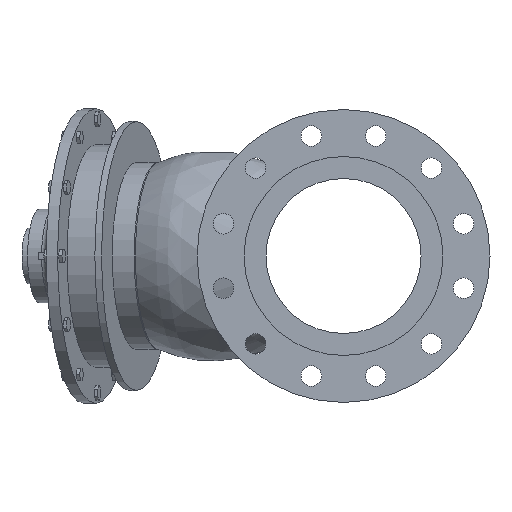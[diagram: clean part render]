
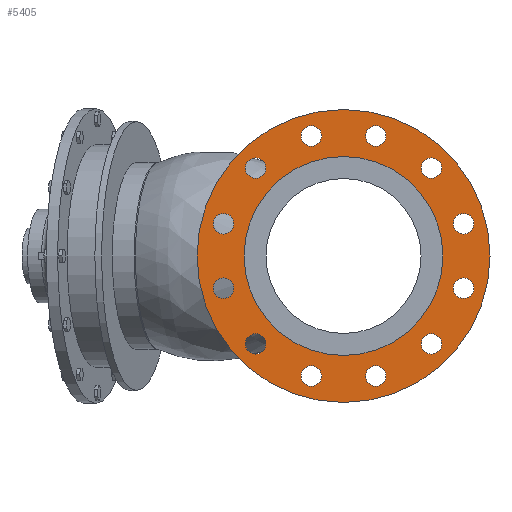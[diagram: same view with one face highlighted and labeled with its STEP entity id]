
A CAD part, left-side view. The second image highlights one B-rep face of the part: STEP entity #5405.
In plain terms, the highlighted planar face has unit normal (-1, 0, 0).
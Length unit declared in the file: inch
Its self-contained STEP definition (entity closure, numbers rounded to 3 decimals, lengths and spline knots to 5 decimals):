
#254=PLANE('',#5807);
#301=FACE_BOUND('',#983,.T.);
#302=FACE_BOUND('',#984,.T.);
#303=FACE_BOUND('',#985,.T.);
#304=FACE_BOUND('',#986,.T.);
#305=FACE_BOUND('',#987,.T.);
#306=FACE_BOUND('',#988,.T.);
#307=FACE_BOUND('',#989,.T.);
#308=FACE_BOUND('',#990,.T.);
#309=FACE_BOUND('',#991,.T.);
#310=FACE_BOUND('',#992,.T.);
#311=FACE_BOUND('',#993,.T.);
#312=FACE_BOUND('',#994,.T.);
#313=FACE_BOUND('',#995,.T.);
#669=FACE_OUTER_BOUND('',#982,.T.);
#982=EDGE_LOOP('',(#4737,#4738));
#983=EDGE_LOOP('',(#4739));
#984=EDGE_LOOP('',(#4740));
#985=EDGE_LOOP('',(#4741));
#986=EDGE_LOOP('',(#4742));
#987=EDGE_LOOP('',(#4743));
#988=EDGE_LOOP('',(#4744));
#989=EDGE_LOOP('',(#4745));
#990=EDGE_LOOP('',(#4746));
#991=EDGE_LOOP('',(#4747));
#992=EDGE_LOOP('',(#4748));
#993=EDGE_LOOP('',(#4749));
#994=EDGE_LOOP('',(#4750));
#995=EDGE_LOOP('',(#4751,#4752));
#2103=CIRCLE('',#5434,0.4375);
#2105=CIRCLE('',#5437,0.4375);
#2107=CIRCLE('',#5440,0.4375);
#2109=CIRCLE('',#5443,0.4375);
#2111=CIRCLE('',#5446,0.4375);
#2113=CIRCLE('',#5449,0.4375);
#2115=CIRCLE('',#5452,0.4375);
#2117=CIRCLE('',#5455,0.4375);
#2119=CIRCLE('',#5458,0.4375);
#2121=CIRCLE('',#5461,0.4375);
#2123=CIRCLE('',#5464,0.4375);
#2125=CIRCLE('',#5467,0.4375);
#2221=CIRCLE('',#5805,4.25);
#2222=CIRCLE('',#5806,4.25);
#2223=CIRCLE('',#5808,6.26);
#2224=CIRCLE('',#5809,6.26);
#2235=VERTEX_POINT('',#7188);
#2237=VERTEX_POINT('',#7194);
#2239=VERTEX_POINT('',#7200);
#2241=VERTEX_POINT('',#7206);
#2243=VERTEX_POINT('',#7212);
#2245=VERTEX_POINT('',#7218);
#2247=VERTEX_POINT('',#7224);
#2249=VERTEX_POINT('',#7230);
#2251=VERTEX_POINT('',#7236);
#2253=VERTEX_POINT('',#7242);
#2255=VERTEX_POINT('',#7248);
#2257=VERTEX_POINT('',#7254);
#2700=VERTEX_POINT('',#9713);
#2701=VERTEX_POINT('',#9714);
#2702=VERTEX_POINT('',#9719);
#2703=VERTEX_POINT('',#9720);
#2714=EDGE_CURVE('',#2235,#2235,#2103,.T.);
#2717=EDGE_CURVE('',#2237,#2237,#2105,.T.);
#2720=EDGE_CURVE('',#2239,#2239,#2107,.T.);
#2723=EDGE_CURVE('',#2241,#2241,#2109,.T.);
#2726=EDGE_CURVE('',#2243,#2243,#2111,.T.);
#2729=EDGE_CURVE('',#2245,#2245,#2113,.T.);
#2732=EDGE_CURVE('',#2247,#2247,#2115,.T.);
#2735=EDGE_CURVE('',#2249,#2249,#2117,.T.);
#2738=EDGE_CURVE('',#2251,#2251,#2119,.T.);
#2741=EDGE_CURVE('',#2253,#2253,#2121,.T.);
#2744=EDGE_CURVE('',#2255,#2255,#2123,.T.);
#2747=EDGE_CURVE('',#2257,#2257,#2125,.T.);
#3399=EDGE_CURVE('',#2700,#2701,#2221,.T.);
#3400=EDGE_CURVE('',#2701,#2700,#2222,.T.);
#3402=EDGE_CURVE('',#2702,#2703,#2223,.T.);
#3403=EDGE_CURVE('',#2703,#2702,#2224,.T.);
#4737=ORIENTED_EDGE('',*,*,#3402,.F.);
#4738=ORIENTED_EDGE('',*,*,#3403,.F.);
#4739=ORIENTED_EDGE('',*,*,#2714,.T.);
#4740=ORIENTED_EDGE('',*,*,#2717,.T.);
#4741=ORIENTED_EDGE('',*,*,#2720,.T.);
#4742=ORIENTED_EDGE('',*,*,#2723,.T.);
#4743=ORIENTED_EDGE('',*,*,#2726,.T.);
#4744=ORIENTED_EDGE('',*,*,#2729,.T.);
#4745=ORIENTED_EDGE('',*,*,#2732,.T.);
#4746=ORIENTED_EDGE('',*,*,#2735,.T.);
#4747=ORIENTED_EDGE('',*,*,#2738,.T.);
#4748=ORIENTED_EDGE('',*,*,#2741,.T.);
#4749=ORIENTED_EDGE('',*,*,#2744,.T.);
#4750=ORIENTED_EDGE('',*,*,#2747,.T.);
#4751=ORIENTED_EDGE('',*,*,#3399,.T.);
#4752=ORIENTED_EDGE('',*,*,#3400,.T.);
#5405=ADVANCED_FACE('',(#669,#301,#302,#303,#304,#305,#306,#307,#308,#309,
#310,#311,#312,#313),#254,.T.);
#5434=AXIS2_PLACEMENT_3D('',#7189,#5844,#5845);
#5437=AXIS2_PLACEMENT_3D('',#7195,#5851,#5852);
#5440=AXIS2_PLACEMENT_3D('',#7201,#5858,#5859);
#5443=AXIS2_PLACEMENT_3D('',#7207,#5865,#5866);
#5446=AXIS2_PLACEMENT_3D('',#7213,#5872,#5873);
#5449=AXIS2_PLACEMENT_3D('',#7219,#5879,#5880);
#5452=AXIS2_PLACEMENT_3D('',#7225,#5886,#5887);
#5455=AXIS2_PLACEMENT_3D('',#7231,#5893,#5894);
#5458=AXIS2_PLACEMENT_3D('',#7237,#5900,#5901);
#5461=AXIS2_PLACEMENT_3D('',#7243,#5907,#5908);
#5464=AXIS2_PLACEMENT_3D('',#7249,#5914,#5915);
#5467=AXIS2_PLACEMENT_3D('',#7255,#5921,#5922);
#5805=AXIS2_PLACEMENT_3D('',#9715,#7112,#7113);
#5806=AXIS2_PLACEMENT_3D('',#9716,#7114,#7115);
#5807=AXIS2_PLACEMENT_3D('',#9718,#7117,#7118);
#5808=AXIS2_PLACEMENT_3D('',#9721,#7119,#7120);
#5809=AXIS2_PLACEMENT_3D('',#9722,#7121,#7122);
#5844=DIRECTION('center_axis',(1.,0.,0.));
#5845=DIRECTION('ref_axis',(0.,0.5,0.866));
#5851=DIRECTION('center_axis',(1.,0.,0.));
#5852=DIRECTION('ref_axis',(0.,0.866,0.5));
#5858=DIRECTION('center_axis',(1.,0.,0.));
#5859=DIRECTION('ref_axis',(0.,1.,0.));
#5865=DIRECTION('center_axis',(1.,0.,0.));
#5866=DIRECTION('ref_axis',(0.,0.866,-0.5));
#5872=DIRECTION('center_axis',(1.,0.,0.));
#5873=DIRECTION('ref_axis',(0.,0.5,-0.866));
#5879=DIRECTION('center_axis',(1.,0.,0.));
#5880=DIRECTION('ref_axis',(0.,0.,-1.));
#5886=DIRECTION('center_axis',(1.,0.,0.));
#5887=DIRECTION('ref_axis',(0.,-0.5,-0.866));
#5893=DIRECTION('center_axis',(1.,0.,0.));
#5894=DIRECTION('ref_axis',(0.,-0.866,-0.5));
#5900=DIRECTION('center_axis',(1.,0.,0.));
#5901=DIRECTION('ref_axis',(0.,-1.,0.));
#5907=DIRECTION('center_axis',(1.,0.,0.));
#5908=DIRECTION('ref_axis',(0.,-0.866,0.5));
#5914=DIRECTION('center_axis',(1.,0.,0.));
#5915=DIRECTION('ref_axis',(0.,-0.5,0.866));
#5921=DIRECTION('center_axis',(1.,0.,0.));
#5922=DIRECTION('ref_axis',(0.,0.,1.));
#7112=DIRECTION('center_axis',(1.,0.,0.));
#7113=DIRECTION('ref_axis',(0.,0.,-1.));
#7114=DIRECTION('center_axis',(1.,0.,0.));
#7115=DIRECTION('ref_axis',(0.,0.,-1.));
#7117=DIRECTION('center_axis',(-1.,0.,0.));
#7118=DIRECTION('ref_axis',(0.,0.,1.));
#7119=DIRECTION('center_axis',(1.,0.,0.));
#7120=DIRECTION('ref_axis',(0.,0.,-1.));
#7121=DIRECTION('center_axis',(1.,0.,0.));
#7122=DIRECTION('ref_axis',(0.,0.,-1.));
#7188=CARTESIAN_POINT('',(-8.465,3.53775,-4.13539));
#7189=CARTESIAN_POINT('Origin',(-8.465,3.7565,-3.7565));
#7194=CARTESIAN_POINT('',(-8.465,0.99609,-5.35023));
#7195=CARTESIAN_POINT('Origin',(-8.465,1.37498,-5.13148));
#7200=CARTESIAN_POINT('',(-8.465,-1.81248,-5.13148));
#7201=CARTESIAN_POINT('Origin',(-8.465,-1.37498,-5.13148));
#7206=CARTESIAN_POINT('',(-8.465,-4.13539,-3.53775));
#7207=CARTESIAN_POINT('Origin',(-8.465,-3.7565,-3.7565));
#7212=CARTESIAN_POINT('',(-8.465,-5.35023,-0.99609));
#7213=CARTESIAN_POINT('Origin',(-8.465,-5.13148,-1.37498));
#7218=CARTESIAN_POINT('',(-8.465,-5.13148,1.81248));
#7219=CARTESIAN_POINT('Origin',(-8.465,-5.13148,1.37498));
#7224=CARTESIAN_POINT('',(-8.465,-3.53775,4.13539));
#7225=CARTESIAN_POINT('Origin',(-8.465,-3.7565,3.7565));
#7230=CARTESIAN_POINT('',(-8.465,-0.99609,5.35023));
#7231=CARTESIAN_POINT('Origin',(-8.465,-1.37498,5.13148));
#7236=CARTESIAN_POINT('',(-8.465,1.81248,5.13148));
#7237=CARTESIAN_POINT('Origin',(-8.465,1.37498,5.13148));
#7242=CARTESIAN_POINT('',(-8.465,4.13539,3.53775));
#7243=CARTESIAN_POINT('Origin',(-8.465,3.7565,3.7565));
#7248=CARTESIAN_POINT('',(-8.465,5.35023,0.99609));
#7249=CARTESIAN_POINT('Origin',(-8.465,5.13148,1.37498));
#7254=CARTESIAN_POINT('',(-8.465,5.13148,-1.81248));
#7255=CARTESIAN_POINT('Origin',(-8.465,5.13148,-1.37498));
#9713=CARTESIAN_POINT('',(-8.465,4.25,0.));
#9714=CARTESIAN_POINT('',(-8.465,-4.25,0.));
#9715=CARTESIAN_POINT('Origin',(-8.465,0.,0.));
#9716=CARTESIAN_POINT('Origin',(-8.465,0.,0.));
#9718=CARTESIAN_POINT('Origin',(-8.465,6.26,0.));
#9719=CARTESIAN_POINT('',(-8.465,6.26,0.));
#9720=CARTESIAN_POINT('',(-8.465,-6.26,0.));
#9721=CARTESIAN_POINT('Origin',(-8.465,0.,0.));
#9722=CARTESIAN_POINT('Origin',(-8.465,0.,0.));
